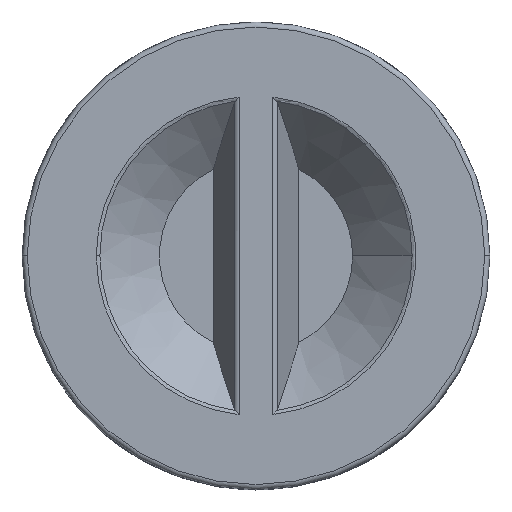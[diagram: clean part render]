
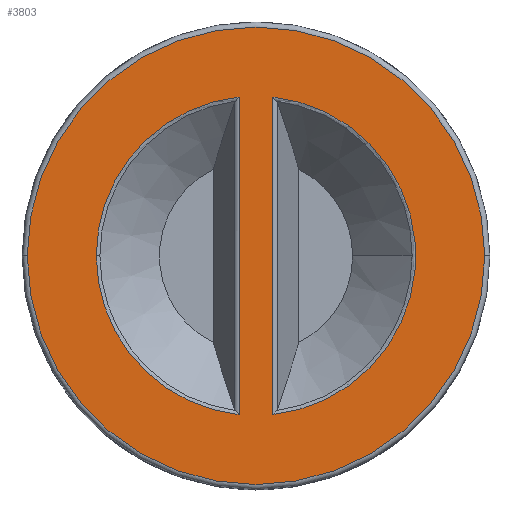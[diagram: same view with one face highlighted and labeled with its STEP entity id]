
A CAD part, top view. The second image highlights one B-rep face of the part: STEP entity #3803.
In plain terms, the highlighted planar face has unit normal (0, 0, 1).
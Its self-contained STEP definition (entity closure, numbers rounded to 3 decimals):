
#224 = VERTEX_POINT ( 'NONE', #3222 ) ;
#235 = ORIENTED_EDGE ( 'NONE', *, *, #4650, .T. ) ;
#359 = CARTESIAN_POINT ( 'NONE',  ( 0., 0., 21.5 ) ) ;
#417 = CIRCLE ( 'NONE', #3821, 31.414 ) ;
#549 = FACE_OUTER_BOUND ( 'NONE', #4087, .T. ) ;
#619 = EDGE_CURVE ( 'NONE', #2868, #224, #2666, .T. ) ;
#633 = VERTEX_POINT ( 'NONE', #2656 ) ;
#660 = CIRCLE ( 'NONE', #3055, 45. ) ;
#908 = DIRECTION ( 'NONE',  ( 0., -1., 0. ) ) ;
#950 = DIRECTION ( 'NONE',  ( -1., 0., 0. ) ) ;
#1054 = CARTESIAN_POINT ( 'NONE',  ( -3.337, 31.236, 21.5 ) ) ;
#1104 = ORIENTED_EDGE ( 'NONE', *, *, #3223, .T. ) ;
#1129 = CARTESIAN_POINT ( 'NONE',  ( 0., 0., 21.5 ) ) ;
#1246 = LINE ( 'NONE', #2377, #1373 ) ;
#1258 = DIRECTION ( 'NONE',  ( -1., 0., 0. ) ) ;
#1294 = CARTESIAN_POINT ( 'NONE',  ( 45., 0., 21.5 ) ) ;
#1372 = FACE_BOUND ( 'NONE', #3390, .T. ) ;
#1373 = VECTOR ( 'NONE', #908, 1000. ) ;
#1463 = CARTESIAN_POINT ( 'NONE',  ( 0., 0., 21.5 ) ) ;
#1600 = CARTESIAN_POINT ( 'NONE',  ( 0., 0., 21.5 ) ) ;
#1823 = CARTESIAN_POINT ( 'NONE',  ( 3.337, -31.236, 21.5 ) ) ;
#1857 = AXIS2_PLACEMENT_3D ( 'NONE', #1129, #2222, #4154 ) ;
#1869 = EDGE_CURVE ( 'NONE', #3499, #1971, #3150, .T. ) ;
#1886 = DIRECTION ( 'NONE',  ( -1., 0., 0. ) ) ;
#1933 = DIRECTION ( 'NONE',  ( 0., 0., -1. ) ) ;
#1971 = VERTEX_POINT ( 'NONE', #4706 ) ;
#2033 = ORIENTED_EDGE ( 'NONE', *, *, #619, .T. ) ;
#2064 = PLANE ( 'NONE',  #3044 ) ;
#2173 = ORIENTED_EDGE ( 'NONE', *, *, #2437, .T. ) ;
#2222 = DIRECTION ( 'NONE',  ( 0., 0., -1. ) ) ;
#2377 = CARTESIAN_POINT ( 'NONE',  ( -3.337, 0., 21.5 ) ) ;
#2392 = DIRECTION ( 'NONE',  ( 0., 0., 1. ) ) ;
#2437 = EDGE_CURVE ( 'NONE', #3811, #2518, #4064, .T. ) ;
#2518 = VERTEX_POINT ( 'NONE', #1054 ) ;
#2553 = EDGE_CURVE ( 'NONE', #633, #3811, #2887, .T. ) ;
#2656 = CARTESIAN_POINT ( 'NONE',  ( -3.337, -31.236, 21.5 ) ) ;
#2666 = CIRCLE ( 'NONE', #3457, 45. ) ;
#2683 = DIRECTION ( 'NONE',  ( 0., 0., 1. ) ) ;
#2773 = ORIENTED_EDGE ( 'NONE', *, *, #1869, .T. ) ;
#2868 = VERTEX_POINT ( 'NONE', #1294 ) ;
#2887 = CIRCLE ( 'NONE', #1857, 31.414 ) ;
#3044 = AXIS2_PLACEMENT_3D ( 'NONE', #3580, #4337, #950 ) ;
#3055 = AXIS2_PLACEMENT_3D ( 'NONE', #1600, #2392, #1258 ) ;
#3131 = VECTOR ( 'NONE', #3570, 1000. ) ;
#3150 = LINE ( 'NONE', #4284, #3131 ) ;
#3222 = CARTESIAN_POINT ( 'NONE',  ( -45., 0., 21.5 ) ) ;
#3223 = EDGE_CURVE ( 'NONE', #1971, #3499, #417, .T. ) ;
#3284 = EDGE_CURVE ( 'NONE', #2518, #633, #1246, .T. ) ;
#3365 = CARTESIAN_POINT ( 'NONE',  ( 0., 0., 21.5 ) ) ;
#3390 = EDGE_LOOP ( 'NONE', ( #4704, #2173, #4222 ) ) ;
#3457 = AXIS2_PLACEMENT_3D ( 'NONE', #1463, #2683, #4915 ) ;
#3461 = EDGE_LOOP ( 'NONE', ( #1104, #2773 ) ) ;
#3499 = VERTEX_POINT ( 'NONE', #1823 ) ;
#3570 = DIRECTION ( 'NONE',  ( 0., 1., 0. ) ) ;
#3580 = CARTESIAN_POINT ( 'NONE',  ( 29., 0., 21.5 ) ) ;
#3725 = DIRECTION ( 'NONE',  ( -1., 0., 0. ) ) ;
#3803 = ADVANCED_FACE ( 'NONE', ( #1372, #3947, #549 ), #2064, .F. ) ;
#3811 = VERTEX_POINT ( 'NONE', #4357 ) ;
#3821 = AXIS2_PLACEMENT_3D ( 'NONE', #359, #1933, #1886 ) ;
#3947 = FACE_BOUND ( 'NONE', #3461, .T. ) ;
#4060 = AXIS2_PLACEMENT_3D ( 'NONE', #3365, #4099, #3725 ) ;
#4064 = CIRCLE ( 'NONE', #4060, 31.414 ) ;
#4087 = EDGE_LOOP ( 'NONE', ( #235, #2033 ) ) ;
#4099 = DIRECTION ( 'NONE',  ( 0., 0., -1. ) ) ;
#4154 = DIRECTION ( 'NONE',  ( -1., 0., 0. ) ) ;
#4222 = ORIENTED_EDGE ( 'NONE', *, *, #3284, .T. ) ;
#4284 = CARTESIAN_POINT ( 'NONE',  ( 3.337, 0., 21.5 ) ) ;
#4337 = DIRECTION ( 'NONE',  ( 0., 0., -1. ) ) ;
#4357 = CARTESIAN_POINT ( 'NONE',  ( -31.414, 0., 21.5 ) ) ;
#4650 = EDGE_CURVE ( 'NONE', #224, #2868, #660, .T. ) ;
#4704 = ORIENTED_EDGE ( 'NONE', *, *, #2553, .T. ) ;
#4706 = CARTESIAN_POINT ( 'NONE',  ( 3.337, 31.236, 21.5 ) ) ;
#4915 = DIRECTION ( 'NONE',  ( -1., 0., 0. ) ) ;
